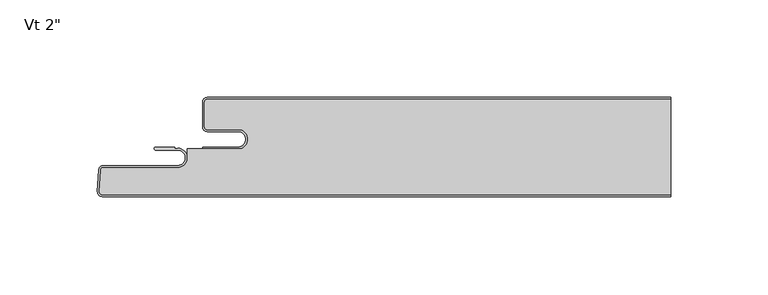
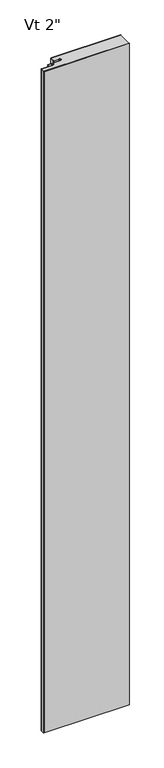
"""IFC4 building model written with IfcOpenShell, lengths in millimetres: plate geometry."""

from ifc_helpers import new_model, si_unit, point, frame_2d, origin, origin_with_axes, place, context, project, spatial, polyline, circle_curve, trimmed, segment, composite_curve, outline, extrude, source, transform, mapped, element, save


def plate_b0db7024(model_context):
    return source(origin(), model_context, "Body", "SweptSolid", [
        extrude(outline(composite_curve([segment(polyline([(-117.2249998, -1.0), (120.3999998, -1.0), (120.3999998, -49.8), (-171.0719359, -49.8)]), True, "CONTINUOUS"), segment(trimmed(circle_curve(frame_2d((-171.0719359, -48.41875)), 1.38125), [point((-171.0719359, -49.8))], [point((-172.451293, -48.346461))], False, "CARTESIAN"), True, "CONTINUOUS"), segment(polyline([(-172.451293, -48.346461), (-171.8689115, -37.233961)]), True, "CONTINUOUS"), segment(trimmed(circle_curve(frame_2d((-170.4895545, -37.30625)), 1.38125), [point((-171.8689115, -37.233961))], [point((-170.4895545, -35.925))], False, "CARTESIAN"), True, "CONTINUOUS"), segment(polyline([(-170.4895545, -35.925), (-132.3062498, -35.925)]), True, "CONTINUOUS"), segment(trimmed(circle_curve(frame_2d((-132.3062498, -30.95625)), 4.96875), [point((-132.3062498, -35.925))], [point((-127.3374998, -30.95625))], True, "CARTESIAN"), True, "CONTINUOUS"), segment(polyline([(-127.3374998, -30.95625), (-127.3374998, -26.4), (-101.3499998, -26.4)]), True, "CONTINUOUS"), segment(trimmed(circle_curve(frame_2d((-101.3499998, -21.43125)), 4.96875), [point((-101.3499998, -26.4))], [point((-101.3499998, -16.4625))], True, "CARTESIAN"), True, "CONTINUOUS"), segment(polyline([(-101.3499998, -16.4625), (-117.2249998, -16.4625)]), True, "CONTINUOUS"), segment(trimmed(circle_curve(frame_2d((-117.2249998, -15.08125)), 1.38125), [point((-117.2249998, -16.4625))], [point((-118.6062498, -15.08125))], False, "CARTESIAN"), True, "CONTINUOUS"), segment(polyline([(-118.6062498, -15.08125), (-118.6062498, -2.38125)]), True, "CONTINUOUS"), segment(trimmed(circle_curve(frame_2d((-117.2249998, -2.38125)), 1.38125), [point((-118.6062498, -2.38125))], [point((-117.2249998, -1.0))], False, "CARTESIAN"), True, "CONTINUOUS")], self_intersect=False)), origin_with_axes(), (0.0, 0.0, 1.0), 2400.0),
        extrude(outline(composite_curve([segment(polyline([(-119.6062498, -25.4), (-101.3499998, -25.4)]), True, "CONTINUOUS"), segment(trimmed(circle_curve(frame_2d((-101.3499998, -21.43125)), 3.96875), [point((-101.3499998, -25.4))], [point((-101.3499998, -17.4625))], True, "CARTESIAN"), True, "CONTINUOUS"), segment(polyline([(-101.3499998, -17.4625), (-117.2249998, -17.4625)]), True, "CONTINUOUS"), segment(trimmed(circle_curve(frame_2d((-117.2249998, -15.08125)), 2.38125), [point((-117.2249998, -17.4625))], [point((-119.6062498, -15.08125))], False, "CARTESIAN"), True, "CONTINUOUS"), segment(polyline([(-119.6062498, -15.08125), (-119.6062498, -2.38125)]), True, "CONTINUOUS"), segment(trimmed(circle_curve(frame_2d((-117.2249998, -2.38125)), 2.38125), [point((-119.6062498, -2.38125))], [point((-117.2249998, 0.0))], False, "CARTESIAN"), True, "CONTINUOUS"), segment(polyline([(-117.2249998, 0.0), (120.3999998, 0.0), (120.3999998, -1.0), (-117.2249998, -1.0)]), True, "CONTINUOUS"), segment(trimmed(circle_curve(frame_2d((-117.2249998, -2.38125)), 1.38125), [point((-117.2249998, -1.0))], [point((-118.6062498, -2.38125))], True, "CARTESIAN"), True, "CONTINUOUS"), segment(polyline([(-118.6062498, -2.38125), (-118.6062498, -15.08125)]), True, "CONTINUOUS"), segment(trimmed(circle_curve(frame_2d((-117.2249998, -15.08125)), 1.38125), [point((-118.6062498, -15.08125))], [point((-117.2249998, -16.4625))], True, "CARTESIAN"), True, "CONTINUOUS"), segment(polyline([(-117.2249998, -16.4625), (-101.3499998, -16.4625)]), True, "CONTINUOUS"), segment(trimmed(circle_curve(frame_2d((-101.3499998, -21.43125)), 4.96875), [point((-101.3499998, -16.4625))], [point((-101.3499998, -26.4))], False, "CARTESIAN"), True, "CONTINUOUS"), segment(polyline([(-101.3499998, -26.4), (-119.6062498, -26.4), (-119.6062498, -25.4)]), True, "CONTINUOUS")], self_intersect=False)), origin_with_axes(), (0.0, 0.0, 1.0), 2400.0),
        extrude(outline(composite_curve([segment(polyline([(-143.6314548, -25.4), (-133.9080173, -25.4), (-133.9080173, -26.19375), (-132.3205173, -25.9875)]), True, "CONTINUOUS"), segment(trimmed(circle_curve(frame_2d((-132.3205173, -30.95625)), 4.96875), [point((-132.3205173, -25.9875))], [point((-132.3205173, -35.925))], False, "CARTESIAN"), True, "CONTINUOUS"), segment(polyline([(-132.3205173, -35.925), (-170.5038219, -35.925)]), True, "CONTINUOUS"), segment(trimmed(circle_curve(frame_2d((-170.5038219, -37.30625)), 1.38125), [point((-170.5038219, -35.925))], [point((-171.883179, -37.233961))], True, "CARTESIAN"), True, "CONTINUOUS"), segment(polyline([(-171.883179, -37.233961), (-172.4655604, -48.346461)]), True, "CONTINUOUS"), segment(trimmed(circle_curve(frame_2d((-171.0862034, -48.41875)), 1.38125), [point((-172.4655604, -48.346461))], [point((-171.0862034, -49.8))], True, "CARTESIAN"), True, "CONTINUOUS"), segment(polyline([(-171.0862034, -49.8), (120.3999998, -49.8), (120.3999998, -50.8), (-171.0862034, -50.8)]), True, "CONTINUOUS"), segment(trimmed(circle_curve(frame_2d((-171.0862034, -48.41875)), 2.38125), [point((-171.0862034, -50.8))], [point((-173.4641899, -48.294125))], False, "CARTESIAN"), True, "CONTINUOUS"), segment(polyline([(-173.4641899, -48.294125), (-172.8818085, -37.181625)]), True, "CONTINUOUS"), segment(trimmed(circle_curve(frame_2d((-170.5038219, -37.30625)), 2.38125), [point((-172.8818085, -37.181625))], [point((-170.5038219, -34.925))], False, "CARTESIAN"), True, "CONTINUOUS"), segment(polyline([(-170.5038219, -34.925), (-132.3205173, -34.925)]), True, "CONTINUOUS"), segment(trimmed(circle_curve(frame_2d((-132.3205173, -30.95625)), 3.96875), [point((-132.3205173, -34.925))], [point((-132.3205173, -26.9875))], True, "CARTESIAN"), True, "CONTINUOUS"), segment(polyline([(-132.3205173, -26.9875), (-143.6314548, -26.9875)]), True, "CONTINUOUS"), segment(trimmed(circle_curve(frame_2d((-143.6314548, -26.19375)), 0.79375), [point((-143.6314548, -26.9875))], [point((-143.6314548, -25.4))], False, "CARTESIAN"), True, "CONTINUOUS")], self_intersect=False)), origin_with_axes(), (0.0, 0.0, 1.0), 2400.0),
    ])


if __name__ == "__main__":
    model = new_model("IFC4")
    model_context = context("Model", 3, world=origin())
    ifc_project = project(units=[si_unit("LENGTHUNIT", "METRE", prefix="MILLI")], contexts=[model_context])
    site = spatial("IfcSite", under=ifc_project)
    building = spatial("IfcBuilding", under=site)
    placement = place(None, origin())
    plate_shape = plate_b0db7024(model_context)
    element("IfcPlate", 1, ObjectType="KIP-24-DWHR-R19-CP-Vt-F : Vt 2\"", at=placement, inside=building, context=model_context, shape_type="MappedRepresentation", body=[
        mapped(plate_shape, transform((0.0, 0.0, 0.0), x_axis=(1.0, 0.0, 0.0), y_axis=(0.0, 1.0, 0.0), z_axis=(0.0, 0.0, 1.0))),
    ])
    save(model, "model.ifc")
